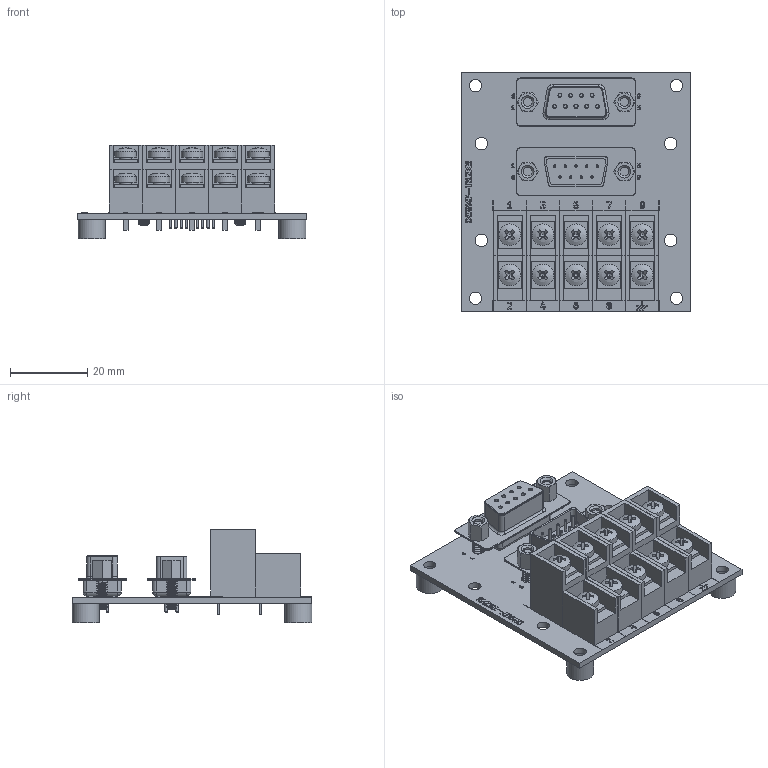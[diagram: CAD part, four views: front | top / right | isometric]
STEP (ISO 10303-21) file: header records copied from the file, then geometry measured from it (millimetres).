
FILE_DESCRIPTION(('FreeCAD Model'),'2;1');
FILE_NAME('C:/ws/KiCad/interface-terminal-converter/dsub9-terminal/latest/dsub9-terminal/step/de9mf-tb2x5_direct_step.step','2020-12-24T21:33:10',( 'Author'),(''),'Open CASCADE STEP processor 7.3','FreeCAD','Unknown' );
FILE_SCHEMA(('AUTOMOTIVE_DESIGN { 1 0 10303 214 1 1 1 1 }'));
Length unit declared in the file: millimetre
Products named in the file (31): dsub9-terminaldirect; Board_Geoms_f05a; Local_CS_f05a; Pcb_f05a; PCB_Sketch_f05a; botSilks_e771; topSilks_26b7; Step_Models_f05a; Top_f05a; J2_DSUB-9_Male_Vertical_P2.77x2.84mm_MountingHoles_5FAFF449; J2_74m9499_5205818-2_5FAFF449[2]; J2_74m9499_5205818-2_5FAFF449[3]; J1_DSUB-9_Female_Vertical_P2.77x2.84mm_MountingHoles_5FB00945; J1_74m9499_5205818-2_5FB00945[2]; J1_74m9499_5205818-2_5FB00945[3]; TB1_KF8500HL-8.5-1P_5FB2DE46; TB1_KF8500HL-8.5-1P_5FB2DE46[2]; TB1_KF8500HL-8.5-1P_5FB2DE46[3]; TB1_KF8500HL-8.5-1P_5FB2DE46[4]; TB1_KF8500HL-8.5-1P_5FB2DE46[5]; Step_Virtual_Models_f05a; BotV_f05a; H1_Body_5FC5D53B; H2_Body_5FC5D542; H3_Body_5FC5D549; H4_Body_5FC5D550
Assembly tree (47 placements, depth 4):
  dsub9-terminaldirect
    Board_Geoms_f05a
      Local_CS_f05a
      Pcb_f05a
      PCB_Sketch_f05a
      botSilks_e771
      topSilks_26b7
    Step_Models_f05a
      Top_f05a
        J2_DSUB-9_Male_Vertical_P2.77x2.84mm_MountingHoles_5FAFF449
        J2_74m9499_5205818-2_5FAFF449[2]
        J2_74m9499_5205818-2_5FAFF449[3]
        J1_DSUB-9_Female_Vertical_P2.77x2.84mm_MountingHoles_5FB00945
        J1_74m9499_5205818-2_5FB00945[2]
        J1_74m9499_5205818-2_5FB00945[3]
        TB1_KF8500HL-8.5-1P_5FB2DE46
        TB1_KF8500HL-8.5-1P_5FB2DE46[2]
        TB1_KF8500HL-8.5-1P_5FB2DE46[3]
        TB1_KF8500HL-8.5-1P_5FB2DE46[4]
        TB1_KF8500HL-8.5-1P_5FB2DE46[5]
    Step_Virtual_Models_f05a
      BotV_f05a
        H1_Body_5FC5D53B
        H2_Body_5FC5D542
        H3_Body_5FC5D549
        H4_Body_5FC5D550
  Board_Geoms_f05a
    Local_CS_f05a
    Pcb_f05a
    PCB_Sketch_f05a
    botSilks_e771
    topSilks_26b7
  Step_Models_f05a
    Top_f05a
      J2_DSUB-9_Male_Vertical_P2.77x2.84mm_MountingHoles_5FAFF449
      J2_74m9499_5205818-2_5FAFF449[2]
      J2_74m9499_5205818-2_5FAFF449[3]
      J1_DSUB-9_Female_Vertical_P2.77x2.84mm_MountingHoles_5FB00945
      J1_74m9499_5205818-2_5FB00945[2]
      J1_74m9499_5205818-2_5FB00945[3]
      TB1_KF8500HL-8.5-1P_5FB2DE46
      TB1_KF8500HL-8.5-1P_5FB2DE46[2]
      TB1_KF8500HL-8.5-1P_5FB2DE46[3]
      TB1_KF8500HL-8.5-1P_5FB2DE46[4]
      TB1_KF8500HL-8.5-1P_5FB2DE46[5]
  Step_Virtual_Models_f05a
    BotV_f05a
      H1_Body_5FC5D53B
      H2_Body_5FC5D542
      H3_Body_5FC5D549
      H4_Body_5FC5D550
Bounding box: 59.5 x 62 x 24.1 mm (x, y, z)
Volume: 43047.5 mm3; surface area: 47737.4 mm2
Topology: 112 solids, 288 shells, 2602 faces, 31150 edges, 29032 vertices
Faces by surface type: plane 1408, cylinder 602, cone 322, torus 110, bspline 96, sphere 36, revolution 28
Full cylindrical faces by diameter (mm): 0.64 x72, 0.853 x18, 1 x36, 1.5 x20, 2.5 x20, 3 x20, 3.2 x60, 5.6 x20, 7 x8
Entity records: 157566 total; most frequent: CARTESIAN_POINT 44478, DIRECTION 18955, ORIENTED_EDGE 18429, EDGE_CURVE 15544, VERTEX_POINT 14509, LINE 14053, VECTOR 14053, AXIS2_PLACEMENT_3D 2444
